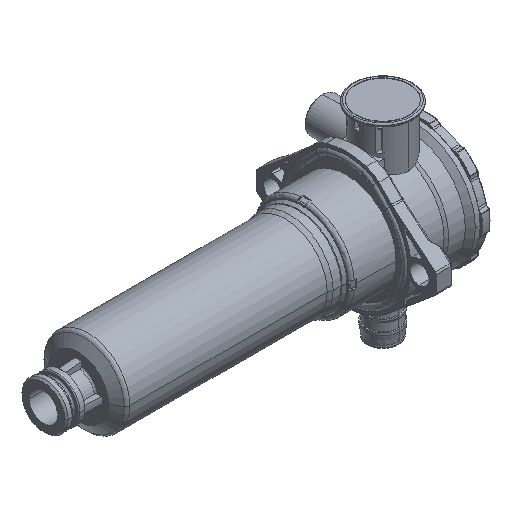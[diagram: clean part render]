
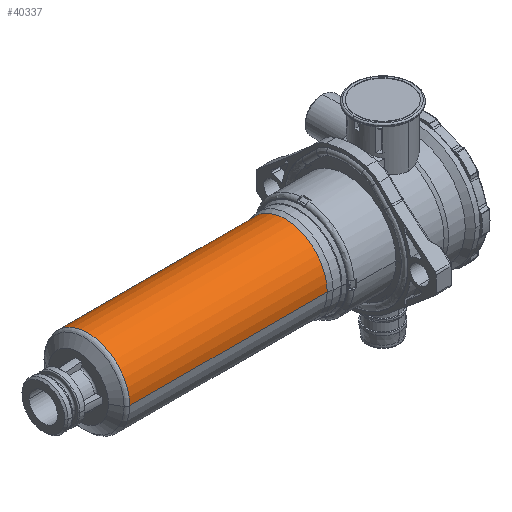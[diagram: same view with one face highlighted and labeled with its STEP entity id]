
A CAD part, isometric view. The second image highlights one B-rep face of the part: STEP entity #40337.
In plain terms, the highlighted cylindrical face has radius 25.25 mm (diameter 50.5 mm), a partial arc.
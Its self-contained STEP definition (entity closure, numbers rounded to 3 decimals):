
#13991=CARTESIAN_POINT('',(-36.61,-0.001,
-0.126));
#13992=DIRECTION('',(-1.,0.,0.));
#13993=DIRECTION('',(0.,-1.,0.));
#13994=AXIS2_PLACEMENT_3D('',#13991,#13992,#13993);
#14006=DIRECTION('',(-1.,0.,0.));
#14007=VECTOR('',#14006,118.462);
#14008=CARTESIAN_POINT('',(-36.61,-25.251,
-0.126));
#14009=LINE('',#14008,#14007);
#14013=DIRECTION('',(-1.,0.,0.));
#14014=VECTOR('',#14013,118.462);
#14015=CARTESIAN_POINT('',(-36.61,25.249,
-0.126));
#14016=LINE('',#14015,#14014);
#14036=CARTESIAN_POINT('',(-155.072,-0.001,
-0.126));
#14037=DIRECTION('',(1.,0.,0.));
#14038=DIRECTION('',(0.,1.,0.));
#14039=AXIS2_PLACEMENT_3D('',#14036,#14037,#14038);
#23944=CARTESIAN_POINT('',(-155.072,25.249,
-0.126));
#23945=VERTEX_POINT('',#23944);
#23946=CARTESIAN_POINT('',(-155.072,-25.251,
-0.126));
#23947=VERTEX_POINT('',#23946);
#23948=CARTESIAN_POINT('',(-36.61,25.249,
-0.126));
#23949=VERTEX_POINT('',#23948);
#23950=CARTESIAN_POINT('',(-36.61,-25.251,
-0.126));
#23951=VERTEX_POINT('',#23950);
#40323=CARTESIAN_POINT('',(-95.841,-0.001,
-0.126));
#40324=DIRECTION('',(-1.,0.,0.));
#40325=DIRECTION('',(0.,1.,0.));
#40326=AXIS2_PLACEMENT_3D('',#40323,#40324,#40325);
#40327=CYLINDRICAL_SURFACE('',#40326,25.25);
#40328=ORIENTED_EDGE('',*,*,#40317,.F.);
#40330=ORIENTED_EDGE('',*,*,#40329,.T.);
#40332=ORIENTED_EDGE('',*,*,#40331,.F.);
#40334=ORIENTED_EDGE('',*,*,#40333,.F.);
#40335=EDGE_LOOP('',(#40328,#40330,#40332,#40334));
#40336=FACE_OUTER_BOUND('',#40335,.F.);
#13995=CIRCLE('',#13994,25.25);
#14040=CIRCLE('',#14039,25.25);
#40317=EDGE_CURVE('',#23951,#23949,#13995,.T.);
#40329=EDGE_CURVE('',#23951,#23947,#14009,.T.);
#40331=EDGE_CURVE('',#23945,#23947,#14040,.T.);
#40333=EDGE_CURVE('',#23949,#23945,#14016,.T.);
#40337=ADVANCED_FACE('',(#40336),#40327,.T.);
